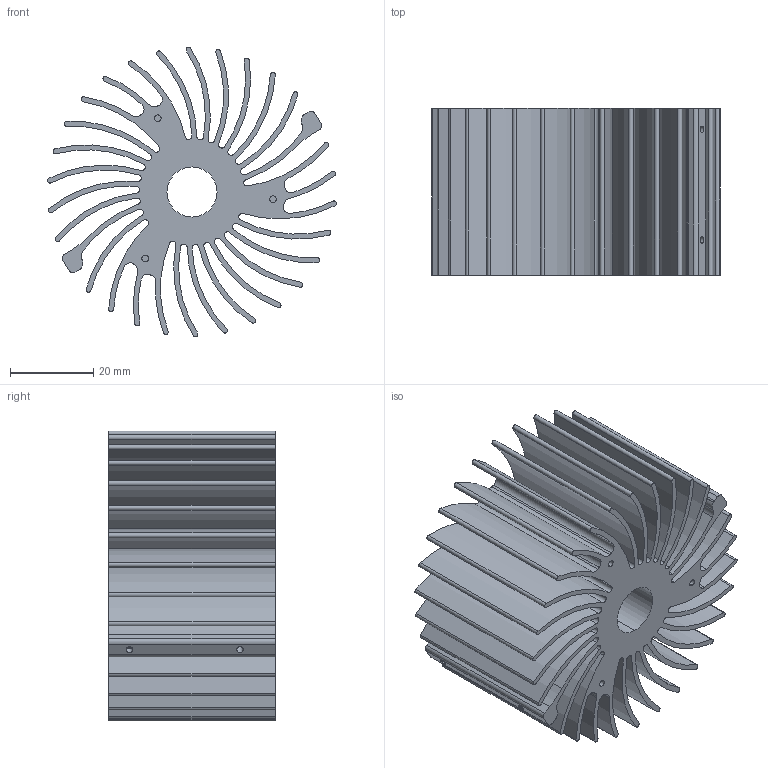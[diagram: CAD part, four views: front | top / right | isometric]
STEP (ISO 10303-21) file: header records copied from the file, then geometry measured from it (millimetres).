
FILE_DESCRIPTION((''),'2;1');
FILE_NAME('X00734-REVB','2012-06-04T',('Jonah'),(''),'PRO/ENGINEER BY PARAMETRIC TECHNOLOGY CORPORATION, 2010230','PRO/ENGINEER BY PARAMETRIC TECHNOLOGY CORPORATION, 2010230','');
FILE_SCHEMA(('CONFIG_CONTROL_DESIGN'));
Length unit declared in the file: millimetre
Products named in the file (1): X00734-REVB
Bounding box: 69.31 x 40 x 69.51 mm (x, y, z)
Volume: 56176.2 mm3; surface area: 59031.1 mm2
Topology: 1 solids, 1 shells, 203 faces, 594 edges, 396 vertices
Faces by surface type: cylinder 178, plane 25
Entity records: 7202 total; most frequent: CARTESIAN_POINT 1469, DIRECTION 1308, ORIENTED_EDGE 1188, EDGE_CURVE 594, AXIS2_PLACEMENT_3D 547, VERTEX_POINT 396, CIRCLE 344, EDGE_LOOP 220
